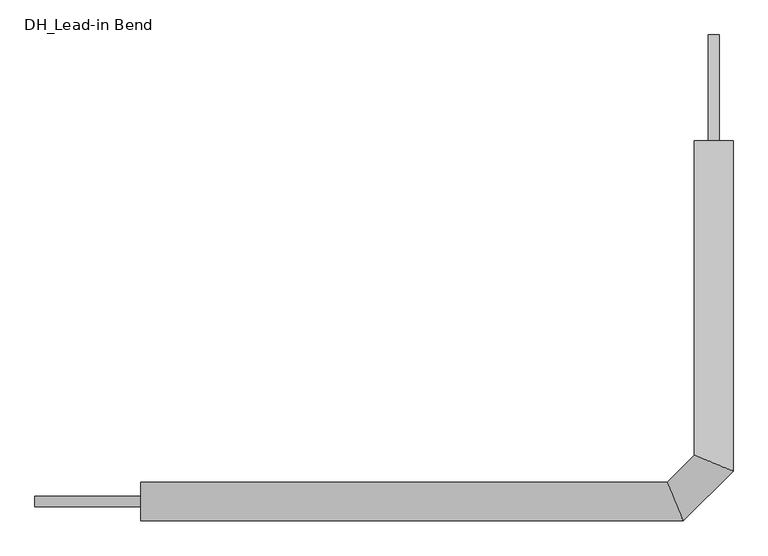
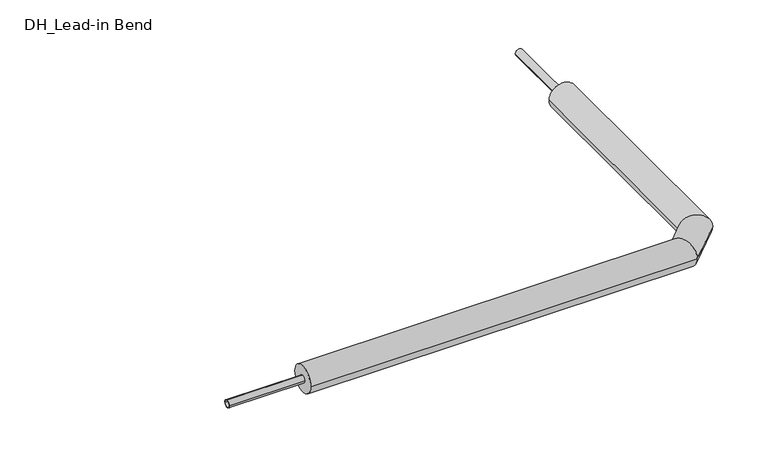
"""IFC4 building model written with IfcOpenShell, lengths in millimetres: pipe fitting geometry, DH_Lead-in Bend : RVT/RVX/RTX UNO 11 Heating."""

from ifc_helpers import new_model, si_unit, point, frame, origin, origin_2d, place, context, project, spatial, circle_curve, ellipse_curve, trimmed, segment, composite_curve, outline, extrude, source, transform, mapped, element, save
from ifc_brep_helpers import plane_surface, cylinder_surface, advanced_brep


def dh_lead_in_bend_7c9c8f80(model_context):
    return source(origin(), model_context, "Body", "SolidModel", [
        advanced_brep(
        [(-1350.0, -45.5, 0.0), (-1350.0, 45.5, 0.0), (-72.1532829, -45.5, 0.0), (-109.8467171, 45.5, 0.0), (45.5, 850.0, 0.0), (-45.5, 850.0, 0.0), (-45.5, 109.8467171, 0.0), (45.5, 72.1532829, 0.0)],
        [
            (0, 1, circle_curve(frame((-1350.0, 0.0, 0.0), z_axis=(-1.0, 0.0, 0.0), x_axis=(0.0, 1.0, 0.0)), 45.5)),
            (1, 0, circle_curve(frame((-1350.0, 0.0, 0.0), z_axis=(-1.0, 0.0, 0.0), x_axis=(0.0, 1.0, 0.0)), 45.5)),
            (0, 2),
            (2, 3, ellipse_curve(frame((-91.0, 0.0, 0.0), z_axis=(-0.9238795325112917, -0.38268343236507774, 0.0), x_axis=(-0.38268343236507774, 0.9238795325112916, 0.0)), 49.2488451, 45.5)),
            (3, 1),
            (3, 2, ellipse_curve(frame((-91.0, 0.0, 0.0), z_axis=(-0.9238795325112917, -0.38268343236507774, 0.0), x_axis=(-0.38268343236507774, 0.9238795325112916, 0.0)), 49.2488451, 45.5)),
            (4, 5, circle_curve(frame((0.0, 850.0, 0.0), z_axis=(0.0, 1.0, 0.0), x_axis=(-1.0, 0.0, 0.0)), 45.5)),
            (5, 4, circle_curve(frame((0.0, 850.0, 0.0), z_axis=(0.0, 1.0, 0.0), x_axis=(-1.0, 0.0, 0.0)), 45.5)),
            (6, 7, ellipse_curve(frame((0.0, 91.0, 0.0), z_axis=(0.3826834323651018, 0.9238795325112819, 0.0), x_axis=(0.9238795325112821, -0.3826834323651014, 0.0)), 49.2488451, 45.5)),
            (7, 4),
            (5, 6),
            (7, 6, ellipse_curve(frame((0.0, 91.0, 0.0), z_axis=(0.3826834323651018, 0.9238795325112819, 0.0), x_axis=(0.9238795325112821, -0.3826834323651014, 0.0)), 49.2488451, 45.5)),
            (2, 7),
            (6, 3),
        ],
        [
            plane_surface(frame((-1350.0, 0.0, 0.0), z_axis=(-1.0, 0.0, 0.0), x_axis=(0.0, 0.0, 1.0))),
            cylinder_surface(frame((-1350.0, 0.0, 0.0), z_axis=(-1.0, 0.0, 0.0), x_axis=(0.0, 1.0, 0.0)), 45.5),
            plane_surface(frame((0.0, 850.0, 0.0), z_axis=(0.0, 1.0, 0.0), x_axis=(0.0, 0.0, 1.0))),
            cylinder_surface(frame((0.0, 91.0, 0.0), z_axis=(0.0, -1.0, 0.0), x_axis=(-1.0, 0.0, 0.0)), 45.5),
            cylinder_surface(frame((-91.0, 0.0, 0.0), z_axis=(-0.707106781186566, -0.7071067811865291, 0.0), x_axis=(-0.7071067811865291, 0.707106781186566, 0.0)), 45.5),
        ],
        [
            (0, [[1, 2]]),
            (1, [[-1, 3, 4, 5]]),
            (1, [[-2, -5, 6, -3]]),
            (2, [[7, 8]]),
            (3, [[9, 10, -8, 11]]),
            (3, [[12, -11, -7, -10]]),
            (4, [[-4, 13, -9, 14]]),
            (4, [[-6, -14, -12, -13]]),
        ],
    ),
        extrude(outline(composite_curve([segment(trimmed(circle_curve(origin_2d(), 12.5), [point((-12.5, 0.0))], [point((12.5, 0.0))], False, "CARTESIAN"), True, "CONTINUOUS"), segment(trimmed(circle_curve(origin_2d(), 12.5), [point((12.5, 0.0))], [point((-12.5, 0.0))], False, "CARTESIAN"), True, "CONTINUOUS")], self_intersect=False), holes=[composite_curve([segment(trimmed(circle_curve(origin_2d(), 10.2), [point((-10.2, 0.0))], [point((10.2, 0.0))], True, "CARTESIAN"), True, "CONTINUOUS"), segment(trimmed(circle_curve(origin_2d(), 10.2), [point((10.2, 0.0))], [point((-10.2, 0.0))], True, "CARTESIAN"), True, "CONTINUOUS")], self_intersect=False)]), frame((-1600.0, 0.0, 0.0), z_axis=(1.0, 0.0, 0.0), x_axis=(0.0, 1.0, 0.0)), (0.0, 0.0, 1.0), 250.0),
        extrude(outline(composite_curve([segment(trimmed(circle_curve(origin_2d(), 12.5), [point((0.0, 12.5))], [point((0.0, -12.5))], False, "CARTESIAN"), True, "CONTINUOUS"), segment(trimmed(circle_curve(origin_2d(), 12.5), [point((0.0, -12.5))], [point((0.0, 12.5))], False, "CARTESIAN"), True, "CONTINUOUS")], self_intersect=False), holes=[composite_curve([segment(trimmed(circle_curve(origin_2d(), 10.2), [point((0.0, 10.2))], [point((0.0, -10.2))], True, "CARTESIAN"), True, "CONTINUOUS"), segment(trimmed(circle_curve(origin_2d(), 10.2), [point((0.0, -10.2))], [point((0.0, 10.2))], True, "CARTESIAN"), True, "CONTINUOUS")], self_intersect=False)]), frame((0.0, 850.0, 0.0), z_axis=(0.0, 1.0, 0.0), x_axis=(0.0, 0.0, 1.0)), (0.0, 0.0, 1.0), 250.0),
    ])


if __name__ == "__main__":
    model = new_model("IFC4")
    model_context = context("Model", 3, world=origin())
    ifc_project = project(units=[si_unit("LENGTHUNIT", "METRE", prefix="MILLI")], contexts=[model_context])
    site = spatial("IfcSite", under=ifc_project)
    building = spatial("IfcBuilding", under=site)
    placement = place(None, origin())
    dh_lead_in_bend_shape = dh_lead_in_bend_7c9c8f80(model_context)
    element("IfcPipeFitting", 1, ObjectType="DH_Lead-in Bend : RVT/RVX/RTX UNO 11 Heating", at=placement, inside=building, context=model_context, shape_type="MappedRepresentation", body=[
        mapped(dh_lead_in_bend_shape, transform((0.0, 0.0, 0.0), x_axis=(1.0, 0.0, 0.0), y_axis=(0.0, 1.0, 0.0), z_axis=(0.0, 0.0, 1.0))),
    ])
    save(model, "model.ifc")
